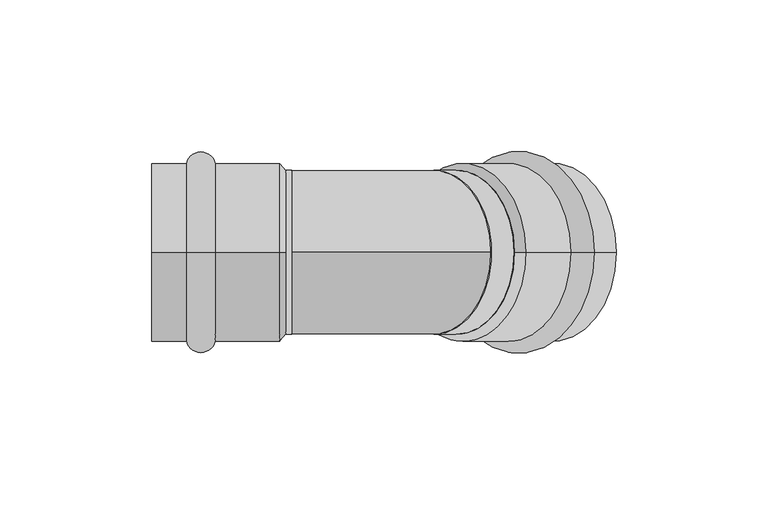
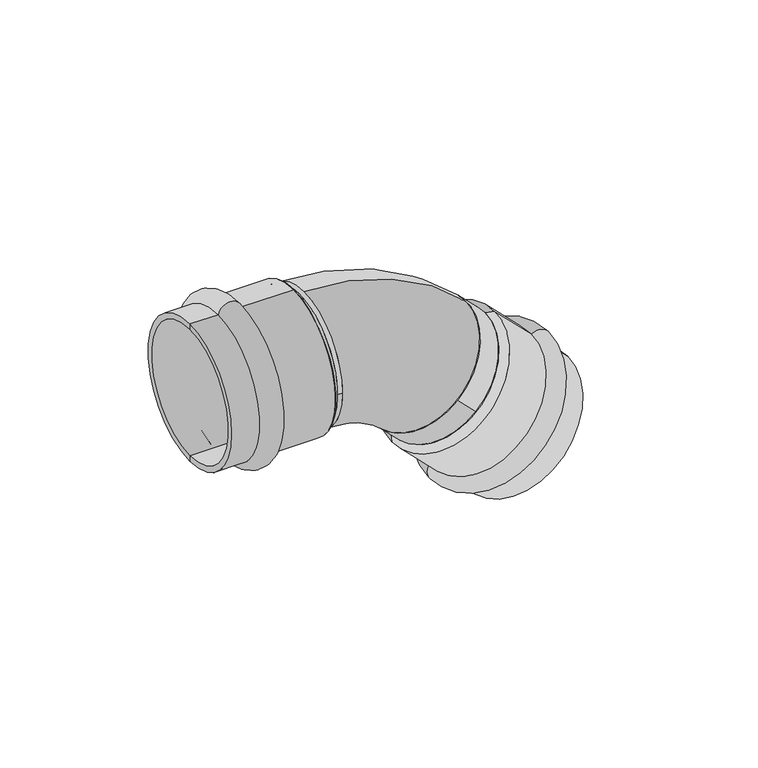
"""IFC4 building model written with IfcOpenShell, lengths in millimetres: pipe fitting geometry, VALTEC_VTi.959.I_Угольник 45° (раструб–раструб) нержавеющая сталь : Тип 1."""

from ifc_helpers import new_model, si_unit, point, frame, frame_2d, origin, origin_2d, place, context, project, spatial, polyline, circle_curve, ellipse_curve, trimmed, segment, composite_curve, outline, extrude, source, transform, mapped, element, save
from ifc_brep_helpers import plane_surface, cylinder_surface, revolved_surface, advanced_brep


def pipe_fitting_056258f8(model_context):
    return source(origin(), model_context, "Body", "SolidModel", [
        advanced_brep(
        [(-4.0, 0.0, 29.3), (-4.0, 0.0, -29.3), (-2.0, 0.0, 27.0), (-2.0, 0.0, -27.0)],
        [
            (0, 1, circle_curve(frame((-4.0, 0.0, 0.0), z_axis=(-1.0, 0.0, 0.0), x_axis=(0.0, 0.0, 1.0)), 29.3)),
            (1, 0, circle_curve(frame((-4.0, 0.0, 0.0), z_axis=(-1.0, 0.0, 0.0), x_axis=(0.0, 0.0, -1.0)), 29.3)),
            (2, 3, circle_curve(frame((-2.0, 0.0, 0.0), z_axis=(1.0, 0.0, 0.0), x_axis=(0.0, 0.0, -1.0)), 27.0)),
            (3, 2, circle_curve(frame((-2.0, 0.0, 0.0), z_axis=(1.0, 0.0, 0.0), x_axis=(0.0, 0.0, 1.0)), 27.0)),
            (3, 1),
            (0, 2),
        ],
        [
            plane_surface(frame((-4.0, 0.0, 0.0), z_axis=(-1.0, 0.0, 0.0), x_axis=(0.0, 1.0, 0.0))),
            plane_surface(frame((-2.0, 0.0, 0.0), z_axis=(1.0, 0.0, 0.0), x_axis=(0.0, 1.0, 0.0))),
            revolved_surface(polyline([(-2.0, 0.0, -27.00000000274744), (-4.0, 0.0, -29.3)]), (21.4782609, 0.0, 0.0), (-1.0, 0.0, 0.0)),
            revolved_surface(polyline([(-2.0, 0.0, 27.00000000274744), (-4.0, 0.0, 29.3)]), (21.4782609, 0.0, 0.0), (-1.0, 0.0, 0.0)),
        ],
        [
            (0, [[1, 2]]),
            (1, [[3, 4]]),
            (2, [[-4, 5, -1, 6]]),
            (3, [[-3, -6, -2, -5]]),
        ],
    ),
        advanced_brep(
        [(35.6137698, 0.0, -49.712132), (77.0502272, 0.0, -8.2756747), (35.118795, 0.0, -45.9644661), (73.3025612, 0.0, -7.7806999)],
        [
            (0, 1, circle_curve(frame((56.3319985, 0.0, -28.9939033), z_axis=(0.7071067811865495, 0.0, -0.7071067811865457), x_axis=(-0.7071067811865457, 0.0, -0.7071067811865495)), 29.3)),
            (1, 0, circle_curve(frame((56.3319985, 0.0, -28.9939033), z_axis=(0.7071067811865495, 0.0, -0.7071067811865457), x_axis=(0.7071067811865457, 0.0, 0.7071067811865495)), 29.3)),
            (2, 3, circle_curve(frame((54.2106781, 0.0, -26.872583), z_axis=(-0.7071067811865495, 0.0, 0.7071067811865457), x_axis=(0.7071067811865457, 0.0, 0.7071067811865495)), 27.0)),
            (3, 2, circle_curve(frame((54.2106781, 0.0, -26.872583), z_axis=(-0.7071067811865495, 0.0, 0.7071067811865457), x_axis=(-0.7071067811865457, 0.0, -0.7071067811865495)), 27.0)),
            (3, 1),
            (0, 2),
        ],
        [
            plane_surface(frame((56.3319985, 0.0, -28.9939033), z_axis=(0.7071067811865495, 0.0, -0.7071067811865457), x_axis=(0.0, 1.0, 0.0))),
            plane_surface(frame((54.2106781, 0.0, -26.872583), z_axis=(-0.7071067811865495, 0.0, 0.7071067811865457), x_axis=(0.0, 1.0, 0.0))),
            revolved_surface(polyline([(73.3025611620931, 0.0, -7.780699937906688), (77.0502272, 0.0, -8.2756747)]), (29.3082219, 0.0, -1.9701268), (0.7071067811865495, 0.0, -0.7071067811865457)),
            revolved_surface(polyline([(35.11879504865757, 0.0, -45.96446605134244), (35.61376981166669, 0.0, -49.71213208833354)]), (29.3082219, 0.0, -1.9701268), (0.7071067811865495, 0.0, -0.7071067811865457)),
        ],
        [
            (0, [[1, 2]]),
            (1, [[3, 4]]),
            (2, [[-4, 5, -1, 6]]),
            (3, [[-3, -6, -2, -5]]),
        ],
    ),
        advanced_brep(
        [(-34.6148701, 0.0, -29.3), (-34.6148701, 0.0, 29.3), (-25.1851299, 0.0, 29.3), (-25.1851299, 0.0, -29.3), (-46.0, 0.0, -29.3), (-46.0, 0.0, 29.3), (-46.0, 0.0, -27.0), (-46.0, 0.0, 27.0), (-4.0, 0.0, -27.0), (-4.0, 0.0, 27.0), (-4.0, 0.0, -29.3), (-4.0, 0.0, 29.3)],
        [
            (0, 1, circle_curve(frame((-34.6148701, 0.0, 0.0), z_axis=(1.0, 0.0, 0.0), x_axis=(0.0, 0.0, 1.0)), 29.3)),
            (1, 2, circle_curve(frame((-29.9, 0.0, 28.4), z_axis=(0.0, 1.0, 0.0), x_axis=(1.0, 0.0, 0.0)), 4.8)),
            (2, 3, circle_curve(frame((-25.1851299, 0.0, 0.0), z_axis=(-1.0, 0.0, 0.0), x_axis=(0.0, 0.0, 1.0)), 29.3)),
            (3, 0, circle_curve(frame((-29.9, 0.0, -28.4), z_axis=(0.0, 1.0, 0.0), x_axis=(1.0, 0.0, 0.0)), 4.8)),
            (1, 0, circle_curve(frame((-34.6148701, 0.0, 0.0), z_axis=(1.0, 0.0, 0.0), x_axis=(0.0, 0.0, 1.0)), 29.3)),
            (3, 2, circle_curve(frame((-25.1851299, 0.0, 0.0), z_axis=(-1.0, 0.0, 0.0), x_axis=(0.0, 0.0, 1.0)), 29.3)),
            (4, 5, circle_curve(frame((-46.0, 0.0, 0.0), z_axis=(1.0, 0.0, 0.0), x_axis=(0.0, 0.0, 1.0)), 29.3)),
            (5, 1),
            (0, 4),
            (5, 4, circle_curve(frame((-46.0, 0.0, 0.0), z_axis=(1.0, 0.0, 0.0), x_axis=(0.0, 0.0, 1.0)), 29.3)),
            (6, 7, circle_curve(frame((-46.0, 0.0, 0.0), z_axis=(1.0, 0.0, 0.0), x_axis=(0.0, 0.0, 1.0)), 27.0)),
            (7, 5),
            (4, 6),
            (7, 6, circle_curve(frame((-46.0, 0.0, 0.0), z_axis=(1.0, 0.0, 0.0), x_axis=(0.0, 0.0, 1.0)), 27.0)),
            (8, 9, circle_curve(frame((-4.0, 0.0, 0.0), z_axis=(1.0, 0.0, 0.0), x_axis=(0.0, 0.0, 1.0)), 27.0)),
            (9, 7),
            (6, 8),
            (9, 8, circle_curve(frame((-4.0, 0.0, 0.0), z_axis=(1.0, 0.0, 0.0), x_axis=(0.0, 0.0, 1.0)), 27.0)),
            (10, 11, circle_curve(frame((-4.0, 0.0, 0.0), z_axis=(1.0, 0.0, 0.0), x_axis=(0.0, 0.0, 1.0)), 29.3)),
            (11, 9),
            (8, 10),
            (11, 10, circle_curve(frame((-4.0, 0.0, 0.0), z_axis=(1.0, 0.0, 0.0), x_axis=(0.0, 0.0, 1.0)), 29.3)),
            (2, 11),
            (10, 3),
        ],
        [
            revolved_surface(trimmed(ellipse_curve(frame((-29.9, 0.0, 28.4), z_axis=(0.0, -1.0, 0.0), x_axis=(1.0, 0.0, 0.0)), 4.8, 4.8), [point((-25.1851299, 0.0, 29.3))], [point((-34.6148701, 0.0, 29.3))], True, "CARTESIAN"), (-49.5364426, 0.0, 0.0), (-1.0, 0.0, 0.0)),
            cylinder_surface(frame((-49.5364426, 0.0, 0.0), z_axis=(-1.0, 0.0, 0.0), x_axis=(0.0, 0.0, 1.0)), 29.3),
            plane_surface(frame((-46.0, 0.0, 0.0), z_axis=(-1.0, 0.0, 0.0), x_axis=(0.0, 0.0, 1.0))),
            revolved_surface(polyline([(-46.0, 0.0, 27.0), (-4.0, 0.0, 27.0)]), (-49.5364426, 0.0, 0.0), (-1.0, 0.0, 0.0)),
            plane_surface(frame((-4.0, 0.0, 0.0), z_axis=(1.0, 0.0, 0.0), x_axis=(0.0, 0.0, 1.0))),
        ],
        [
            (0, [[1, 2, 3, 4]]),
            (0, [[5, -4, 6, -2]]),
            (1, [[7, 8, -1, 9]]),
            (1, [[10, -9, -5, -8]]),
            (2, [[11, 12, -7, 13]]),
            (2, [[14, -13, -10, -12]]),
            (3, [[15, 16, -11, 17]]),
            (3, [[18, -17, -14, -16]]),
            (4, [[19, 20, -15, 21]]),
            (4, [[22, -21, -18, -20]]),
            (1, [[-3, 23, -19, 24]]),
            (1, [[-6, -24, -22, -23]]),
        ],
    ),
        advanced_brep(
        [(98.6982094, 0.0, -29.9236569), (57.261752, 0.0, -71.3601143), (50.5939188, 0.0, -64.6922811), (92.0303762, 0.0, -23.2558237), (106.748712, 0.0, -37.9741595), (65.3122546, 0.0, -79.4106168), (105.1223664, 0.0, -39.6005051), (66.9386002, 0.0, -77.7842712), (75.4238816, 0.0, -9.9020203), (37.2401154, 0.0, -48.0857864), (77.0502272, 0.0, -8.2756747), (35.6137698, 0.0, -49.712132)],
        [
            (0, 1, circle_curve(frame((77.9799807, 0.0, -50.6418856), z_axis=(-0.7071067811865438, 0.0, 0.7071067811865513), x_axis=(-0.7071067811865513, 0.0, -0.7071067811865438)), 29.3)),
            (1, 2, circle_curve(frame((54.5642315, 0.0, -67.3898016), z_axis=(0.0, 1.0, 0.0), x_axis=(-0.7071067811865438, 0.0, 0.7071067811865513)), 4.8)),
            (2, 3, circle_curve(frame((71.3121475, 0.0, -43.9740524), z_axis=(0.7071067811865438, 0.0, -0.7071067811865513), x_axis=(-0.7071067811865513, 0.0, -0.7071067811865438)), 29.3)),
            (3, 0, circle_curve(frame((94.7278967, 0.0, -27.2261364), z_axis=(0.0, 1.0, 0.0), x_axis=(-0.7071067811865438, 0.0, 0.7071067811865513)), 4.8)),
            (1, 0, circle_curve(frame((77.9799807, 0.0, -50.6418856), z_axis=(-0.7071067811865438, 0.0, 0.7071067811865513), x_axis=(-0.7071067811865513, 0.0, -0.7071067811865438)), 29.3)),
            (3, 2, circle_curve(frame((71.3121475, 0.0, -43.9740524), z_axis=(0.7071067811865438, 0.0, -0.7071067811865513), x_axis=(-0.7071067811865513, 0.0, -0.7071067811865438)), 29.3)),
            (4, 5, circle_curve(frame((86.0304833, 0.0, -58.6923882), z_axis=(-0.7071067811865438, 0.0, 0.7071067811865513), x_axis=(-0.7071067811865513, 0.0, -0.7071067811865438)), 29.3)),
            (5, 1),
            (0, 4),
            (5, 4, circle_curve(frame((86.0304833, 0.0, -58.6923882), z_axis=(-0.7071067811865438, 0.0, 0.7071067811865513), x_axis=(-0.7071067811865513, 0.0, -0.7071067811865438)), 29.3)),
            (6, 7, circle_curve(frame((86.0304833, 0.0, -58.6923882), z_axis=(-0.7071067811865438, 0.0, 0.7071067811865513), x_axis=(-0.7071067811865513, 0.0, -0.7071067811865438)), 27.0)),
            (7, 5),
            (4, 6),
            (7, 6, circle_curve(frame((86.0304833, 0.0, -58.6923882), z_axis=(-0.7071067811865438, 0.0, 0.7071067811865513), x_axis=(-0.7071067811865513, 0.0, -0.7071067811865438)), 27.0)),
            (8, 9, circle_curve(frame((56.3319985, 0.0, -28.9939033), z_axis=(-0.7071067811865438, 0.0, 0.7071067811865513), x_axis=(-0.7071067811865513, 0.0, -0.7071067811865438)), 27.0)),
            (9, 7),
            (6, 8),
            (9, 8, circle_curve(frame((56.3319985, 0.0, -28.9939033), z_axis=(-0.7071067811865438, 0.0, 0.7071067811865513), x_axis=(-0.7071067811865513, 0.0, -0.7071067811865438)), 27.0)),
            (10, 11, circle_curve(frame((56.3319985, 0.0, -28.9939033), z_axis=(-0.7071067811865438, 0.0, 0.7071067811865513), x_axis=(-0.7071067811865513, 0.0, -0.7071067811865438)), 29.3)),
            (11, 9),
            (8, 10),
            (11, 10, circle_curve(frame((56.3319985, 0.0, -28.9939033), z_axis=(-0.7071067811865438, 0.0, 0.7071067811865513), x_axis=(-0.7071067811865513, 0.0, -0.7071067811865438)), 29.3)),
            (2, 11),
            (10, 3),
        ],
        [
            revolved_surface(trimmed(ellipse_curve(frame((54.5642315, 0.0, -67.3898016), z_axis=(0.0, -1.0, 0.0), x_axis=(-0.7071067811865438, 0.0, 0.7071067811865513)), 4.8, 4.8), [point((50.5939188, 0.0, -64.6922811))], [point((57.261752, 0.0, -71.3601143))], True, "CARTESIAN"), (88.5311258, 0.0, -61.1930307), (0.7071067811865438, 0.0, -0.7071067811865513)),
            cylinder_surface(frame((88.5311258, 0.0, -61.1930307), z_axis=(0.7071067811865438, 0.0, -0.7071067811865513), x_axis=(-0.7071067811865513, 0.0, -0.7071067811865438)), 29.3),
            plane_surface(frame((86.0304833, 0.0, -58.6923882), z_axis=(0.7071067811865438, 0.0, -0.7071067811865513), x_axis=(-0.7071067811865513, 0.0, -0.7071067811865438))),
            revolved_surface(polyline([(66.93860020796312, 0.0, -77.78427129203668), (37.240115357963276, 0.0, -48.085786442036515)]), (88.5311258, 0.0, -61.1930307), (0.7071067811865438, 0.0, -0.7071067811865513)),
            plane_surface(frame((56.3319985, 0.0, -28.9939033), z_axis=(-0.7071067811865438, 0.0, 0.7071067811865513), x_axis=(-0.7071067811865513, 0.0, -0.7071067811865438))),
        ],
        [
            (0, [[1, 2, 3, 4]]),
            (0, [[5, -4, 6, -2]]),
            (1, [[7, 8, -1, 9]]),
            (1, [[10, -9, -5, -8]]),
            (2, [[11, 12, -7, 13]]),
            (2, [[14, -13, -10, -12]]),
            (3, [[15, 16, -11, 17]]),
            (3, [[18, -17, -14, -16]]),
            (4, [[19, 20, -15, 21]]),
            (4, [[22, -21, -18, -20]]),
            (1, [[-3, 23, -19, 24]]),
            (1, [[-6, -24, -22, -23]]),
        ],
    ),
        extrude(outline(composite_curve([segment(trimmed(circle_curve(origin_2d(), 27.0), [point((-27.0, 0.0))], [point((27.0, 0.0))], False, "CARTESIAN"), True, "CONTINUOUS"), segment(trimmed(circle_curve(origin_2d(), 27.0), [point((27.0, 0.0))], [point((-27.0, 0.0))], False, "CARTESIAN"), True, "CONTINUOUS")], self_intersect=False)), frame((-2.0, 0.0, 0.0), z_axis=(1.0, 0.0, 0.0), x_axis=(0.0, 1.0, 0.0)), (0.0, 0.0, 1.0), 2.0),
        extrude(outline(composite_curve([segment(trimmed(circle_curve(frame_2d((0.0, -27.0)), 27.0), [point((0.0, -54.0))], [point((0.0, 0.0))], False, "CARTESIAN"), True, "CONTINUOUS"), segment(trimmed(circle_curve(frame_2d((0.0, -27.0)), 27.0), [point((0.0, 0.0))], [point((0.0, -54.0))], False, "CARTESIAN"), True, "CONTINUOUS")], self_intersect=False)), frame((54.2106781, -27.0, -26.872583), z_axis=(-0.7071067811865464, 0.0, 0.7071067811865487), x_axis=(-0.7071067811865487, 0.0, -0.7071067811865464)), (0.0, 0.0, 1.0), 10.6654762),
        advanced_brep(
        [(0.0, 0.0, -27.0), (0.0, 0.0, 27.0), (27.5771645, 0.0, -38.4228355), (65.7609307, 0.0, -0.2390693)],
        [
            (0, 1, circle_curve(frame((0.0, 0.0, 0.0), z_axis=(-1.0, 0.0, 0.0), x_axis=(0.0, 0.0, 1.0)), 27.0)),
            (1, 0, circle_curve(frame((0.0, 0.0, 0.0), z_axis=(-1.0, 0.0, 0.0), x_axis=(0.0, 0.0, 1.0)), 27.0)),
            (2, 3, circle_curve(frame((46.6690476, 0.0, -19.3309524), z_axis=(0.7071067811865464, 0.0, -0.7071067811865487), x_axis=(0.7071067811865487, 0.0, 0.7071067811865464)), 27.0)),
            (3, 2, circle_curve(frame((46.6690476, 0.0, -19.3309524), z_axis=(0.7071067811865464, 0.0, -0.7071067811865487), x_axis=(0.7071067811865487, 0.0, 0.7071067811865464)), 27.0)),
            (3, 1, circle_curve(frame((0.0, 0.0, -66.0), z_axis=(0.0, -1.0, 0.0), x_axis=(0.0, 0.0, 1.0)), 93.0)),
            (0, 2, circle_curve(frame((0.0, 0.0, -66.0), z_axis=(0.0, 1.0, 0.0), x_axis=(0.0, 0.0, 1.0)), 39.0)),
        ],
        [
            plane_surface(frame((0.0, 0.0, 0.0), z_axis=(-1.0, 0.0, 0.0), x_axis=(0.0, -1.0, 0.0))),
            plane_surface(frame((46.6690476, 0.0, -19.3309524), z_axis=(0.7071067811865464, 0.0, -0.7071067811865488), x_axis=(0.0, -1.0, 0.0))),
            revolved_surface(trimmed(ellipse_curve(frame((0.0, 0.0, 0.0), z_axis=(-1.0, 0.0, 0.0), x_axis=(0.0, 0.0, 1.0)), 27.0, 27.0), [point((0.0, 0.0, -27.0))], [point((0.0, 0.0, 27.0))], True, "CARTESIAN"), (0.0, 0.0, -66.0), (0.0, 1.0, 0.0)),
            revolved_surface(trimmed(ellipse_curve(frame((0.0, 0.0, 0.0), z_axis=(-1.0, 0.0, 0.0), x_axis=(0.0, 0.0, 1.0)), 27.0, 27.0), [point((0.0, 0.0, 27.0))], [point((0.0, 0.0, -27.0))], True, "CARTESIAN"), (0.0, 0.0, -66.0), (0.0, 1.0, 0.0)),
        ],
        [
            (0, [[1, 2]]),
            (1, [[3, 4]]),
            (2, [[5, -1, 6, -4]]),
            (3, [[-6, -2, -5, -3]]),
        ],
    ),
    ])


if __name__ == "__main__":
    model = new_model("IFC4")
    model_context = context("Model", 3, world=origin())
    ifc_project = project(units=[si_unit("LENGTHUNIT", "METRE", prefix="MILLI")], contexts=[model_context])
    site = spatial("IfcSite", under=ifc_project)
    building = spatial("IfcBuilding", under=site)
    placement = place(None, origin())
    pipe_fitting_shape = pipe_fitting_056258f8(model_context)
    element("IfcPipeFitting", 1, ObjectType="VALTEC_VTi.959.I_Угольник 45° (раструб–раструб) нержавеющая сталь : Тип 1", at=placement, inside=building, context=model_context, shape_type="MappedRepresentation", body=[
        mapped(pipe_fitting_shape, transform((0.0, 0.0, 0.0), x_axis=(1.0, 0.0, 0.0), y_axis=(0.0, 1.0, 0.0), z_axis=(0.0, 0.0, 1.0))),
    ])
    save(model, "model.ifc")
